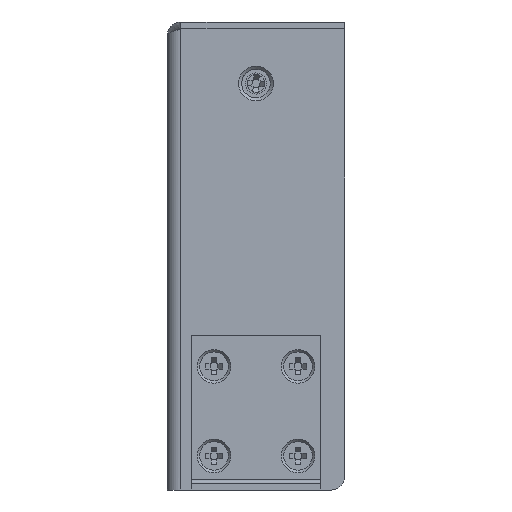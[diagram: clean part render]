
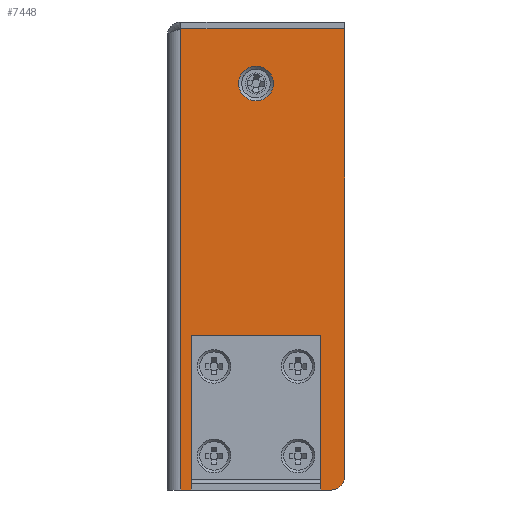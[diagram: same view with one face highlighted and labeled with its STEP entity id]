
A CAD part, left-side view. The second image highlights one B-rep face of the part: STEP entity #7448.
In plain terms, the highlighted planar face has unit normal (-1, 0, 0).
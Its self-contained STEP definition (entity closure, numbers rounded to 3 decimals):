
#179=FACE_BOUND('',#1098,.T.);
#180=FACE_BOUND('',#1099,.T.);
#181=FACE_BOUND('',#1100,.T.);
#182=FACE_BOUND('',#1101,.T.);
#183=FACE_BOUND('',#1102,.T.);
#184=FACE_BOUND('',#1103,.T.);
#295=CIRCLE('',#7980,2.);
#297=CIRCLE('',#7983,1.25);
#298=CIRCLE('',#7984,1.25);
#299=CIRCLE('',#7985,1.25);
#300=CIRCLE('',#7986,2.55);
#301=CIRCLE('',#7987,2.55);
#302=CIRCLE('',#7988,1.25);
#674=FACE_OUTER_BOUND('',#1097,.T.);
#1097=EDGE_LOOP('',(#4916,#4917,#4918,#4919,#4920));
#1098=EDGE_LOOP('',(#4921));
#1099=EDGE_LOOP('',(#4922));
#1100=EDGE_LOOP('',(#4923));
#1101=EDGE_LOOP('',(#4924));
#1102=EDGE_LOOP('',(#4925));
#1103=EDGE_LOOP('',(#4926));
#1623=LINE('',#11168,#2364);
#1630=LINE('',#11268,#2371);
#1633=LINE('',#11277,#2374);
#1634=LINE('',#11278,#2375);
#2364=VECTOR('',#8789,67.5);
#2371=VECTOR('',#8804,22.);
#2374=VECTOR('',#8815,65.5);
#2375=VECTOR('',#8816,24.);
#3031=VERTEX_POINT('',#10676);
#3038=VERTEX_POINT('',#10772);
#3157=VERTEX_POINT('',#11166);
#3160=VERTEX_POINT('',#11266);
#3161=VERTEX_POINT('',#11271);
#3163=VERTEX_POINT('',#11279);
#3164=VERTEX_POINT('',#11281);
#3165=VERTEX_POINT('',#11283);
#3166=VERTEX_POINT('',#11285);
#3167=VERTEX_POINT('',#11287);
#3168=VERTEX_POINT('',#11289);
#3829=EDGE_CURVE('',#3031,#3157,#1623,.T.);
#3838=EDGE_CURVE('',#3157,#3160,#1630,.T.);
#3840=EDGE_CURVE('',#3160,#3161,#295,.T.);
#3843=EDGE_CURVE('',#3161,#3038,#1633,.T.);
#3844=EDGE_CURVE('',#3031,#3038,#1634,.T.);
#3845=EDGE_CURVE('',#3163,#3163,#297,.T.);
#3846=EDGE_CURVE('',#3164,#3164,#298,.T.);
#3847=EDGE_CURVE('',#3165,#3165,#299,.T.);
#3848=EDGE_CURVE('',#3166,#3166,#300,.T.);
#3849=EDGE_CURVE('',#3167,#3167,#301,.T.);
#3850=EDGE_CURVE('',#3168,#3168,#302,.T.);
#4916=ORIENTED_EDGE('',*,*,#3843,.T.);
#4917=ORIENTED_EDGE('',*,*,#3844,.F.);
#4918=ORIENTED_EDGE('',*,*,#3829,.T.);
#4919=ORIENTED_EDGE('',*,*,#3838,.T.);
#4920=ORIENTED_EDGE('',*,*,#3840,.T.);
#4921=ORIENTED_EDGE('',*,*,#3845,.F.);
#4922=ORIENTED_EDGE('',*,*,#3846,.F.);
#4923=ORIENTED_EDGE('',*,*,#3847,.F.);
#4924=ORIENTED_EDGE('',*,*,#3848,.T.);
#4925=ORIENTED_EDGE('',*,*,#3849,.T.);
#4926=ORIENTED_EDGE('',*,*,#3850,.F.);
#6863=PLANE('',#7982);
#7448=ADVANCED_FACE('',(#674,#179,#180,#181,#182,#183,#184),#6863,.T.);
#7980=AXIS2_PLACEMENT_3D('',#11272,#8808,#8809);
#7982=AXIS2_PLACEMENT_3D('',#11276,#8813,#8814);
#7983=AXIS2_PLACEMENT_3D('',#11280,#8817,#8818);
#7984=AXIS2_PLACEMENT_3D('',#11282,#8819,#8820);
#7985=AXIS2_PLACEMENT_3D('',#11284,#8821,#8822);
#7986=AXIS2_PLACEMENT_3D('',#11286,#8823,#8824);
#7987=AXIS2_PLACEMENT_3D('',#11288,#8825,#8826);
#7988=AXIS2_PLACEMENT_3D('',#11290,#8827,#8828);
#8789=DIRECTION('',(0.,0.,-1.));
#8804=DIRECTION('',(0.,-1.,0.));
#8808=DIRECTION('center_axis',(-1.,0.,0.));
#8809=DIRECTION('ref_axis',(0.,0.,-1.));
#8813=DIRECTION('center_axis',(-1.,0.,0.));
#8814=DIRECTION('ref_axis',(0.,0.,-1.));
#8815=DIRECTION('',(0.,0.,1.));
#8816=DIRECTION('',(0.,-1.,0.));
#8817=DIRECTION('center_axis',(-1.,0.,0.));
#8818=DIRECTION('ref_axis',(0.,0.,-1.));
#8819=DIRECTION('center_axis',(-1.,0.,0.));
#8820=DIRECTION('ref_axis',(0.,0.,-1.));
#8821=DIRECTION('center_axis',(-1.,0.,0.));
#8822=DIRECTION('ref_axis',(0.,0.,-1.));
#8823=DIRECTION('center_axis',(1.,0.,0.));
#8824=DIRECTION('ref_axis',(0.,0.,-1.));
#8825=DIRECTION('center_axis',(1.,0.,0.));
#8826=DIRECTION('ref_axis',(0.,0.,-1.));
#8827=DIRECTION('center_axis',(-1.,0.,0.));
#8828=DIRECTION('ref_axis',(0.,0.,-1.));
#10676=CARTESIAN_POINT('',(-70.4,24.,33.25));
#10772=CARTESIAN_POINT('',(-70.4,0.,33.25));
#11166=CARTESIAN_POINT('',(-70.4,24.,-34.25));
#11168=CARTESIAN_POINT('',(-70.4,24.,33.25));
#11266=CARTESIAN_POINT('',(-70.4,2.,-34.25));
#11268=CARTESIAN_POINT('',(-70.4,24.,-34.25));
#11271=CARTESIAN_POINT('',(-70.4,0.,-32.25));
#11272=CARTESIAN_POINT('Origin',(-70.4,2.,-32.25));
#11276=CARTESIAN_POINT('Origin',(-70.4,26.,-34.25));
#11277=CARTESIAN_POINT('',(-70.4,0.,-32.25));
#11278=CARTESIAN_POINT('',(-70.4,24.,33.25));
#11279=CARTESIAN_POINT('',(-70.4,19.15,-14.9));
#11280=CARTESIAN_POINT('Origin',(-70.4,19.15,-16.15));
#11281=CARTESIAN_POINT('',(-70.4,6.85,-28.));
#11282=CARTESIAN_POINT('Origin',(-70.4,6.85,-29.25));
#11283=CARTESIAN_POINT('',(-70.4,6.85,-14.9));
#11284=CARTESIAN_POINT('Origin',(-70.4,6.85,-16.15));
#11285=CARTESIAN_POINT('',(-70.4,13.,-22.2));
#11286=CARTESIAN_POINT('Origin',(-70.4,13.,-24.75));
#11287=CARTESIAN_POINT('',(-70.4,13.,27.8));
#11288=CARTESIAN_POINT('Origin',(-70.4,13.,25.25));
#11289=CARTESIAN_POINT('',(-70.4,19.15,-28.));
#11290=CARTESIAN_POINT('Origin',(-70.4,19.15,-29.25));
